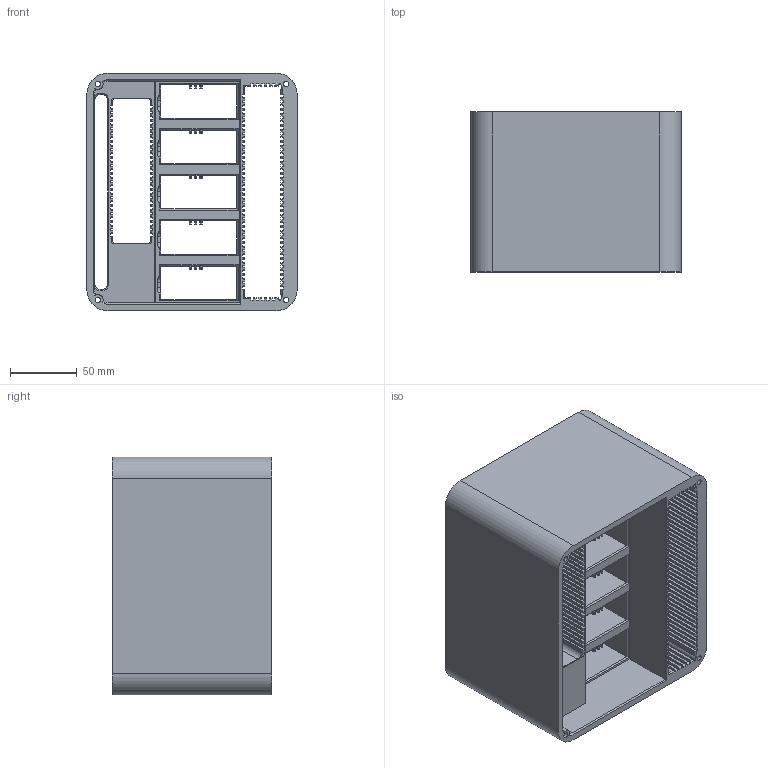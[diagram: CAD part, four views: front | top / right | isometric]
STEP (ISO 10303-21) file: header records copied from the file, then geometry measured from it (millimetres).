
FILE_DESCRIPTION(/* description */ (''),/* implementation_level */ '2;1');
FILE_NAME(/* name */ 'Cluster Core v52.step',/* time_stamp */ '2024-02-11T13:11:15+01:00',/* author */ (''),/* organization */ (''),/* preprocessor_version */ 'ST-DEVELOPER v20',/* originating_system */ 'Autodesk Translation Framework v12.14.0.127',/* authorisation */ '');
FILE_SCHEMA (('AUTOMOTIVE_DESIGN { 1 0 10303 214 3 1 1 }'));
Length unit declared in the file: millimetre
Products named in the file (1): Cluster Core
Bounding box: 158 x 120 x 178.6 mm (x, y, z)
Volume: 947973 mm3; surface area: 334972 mm2
Topology: 1 solids, 1 shells, 1121 faces, 3295 edges, 2169 vertices
Faces by surface type: plane 1037, cylinder 60, cone 24
Full cylindrical faces by diameter (mm): 3 x4, 4 x4
Entity records: 36653 total; most frequent: CARTESIAN_POINT 6676, ORIENTED_EDGE 6590, DIRECTION 5683, EDGE_CURVE 3295, LINE 3103, VECTOR 3103, VERTEX_POINT 2169, AXIS2_PLACEMENT_3D 1290
